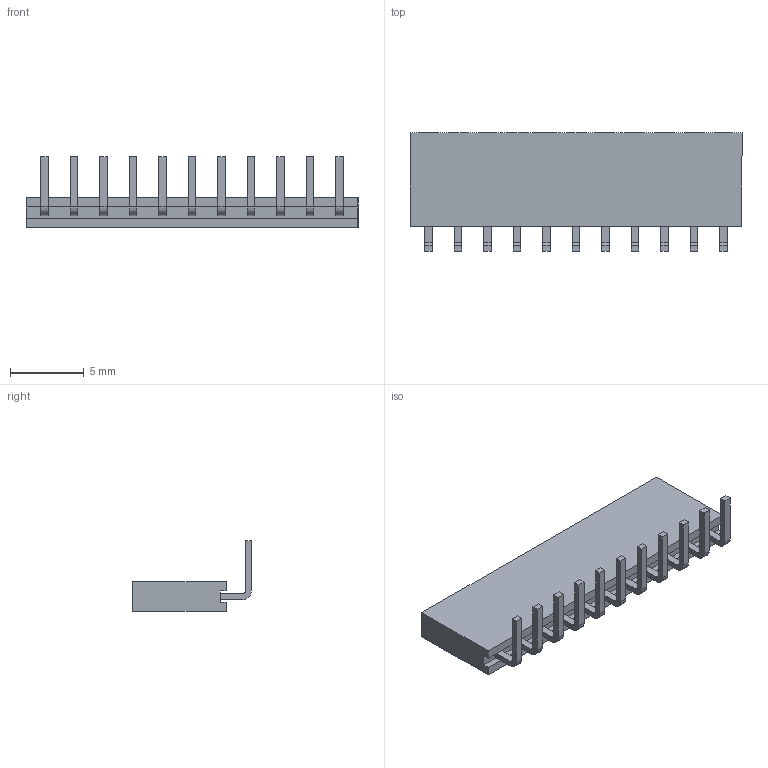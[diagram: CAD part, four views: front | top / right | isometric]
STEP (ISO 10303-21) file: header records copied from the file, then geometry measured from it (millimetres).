
FILE_DESCRIPTION (( 'STEP AP203' ), '1' );
FILE_NAME ('PM200-1-11-W-6.35-XX(L8.05) (2.00单排 排母 弯针 塑高6.35-HCTL).STEP', '2025-07-31T08:22:18', ( '' ), ( '' ), 'SwSTEP 2.0', 'SolidWorks 2022', '' );
FILE_SCHEMA (( 'CONFIG_CONTROL_DESIGN' ));
Length unit declared in the file: millimetre
Products named in the file (1): PM200-1-11-W-6.35-XX(L8.05) (2.00单排 排母 弯针 塑高6.35-HCTL)
Bounding box: 22.5 x 8.05 x 4.8 mm (x, y, z)
Volume: 286.5 mm3; surface area: 541.8 mm2
Topology: 1 solids, 1 shells, 208 faces, 508 edges, 324 vertices
Faces by surface type: plane 186, cylinder 22
Entity records: 6041 total; most frequent: CARTESIAN_POINT 1041, ORIENTED_EDGE 1016, DIRECTION 970, EDGE_CURVE 508, LINE 464, VECTOR 464, VERTEX_POINT 324, AXIS2_PLACEMENT_3D 253
